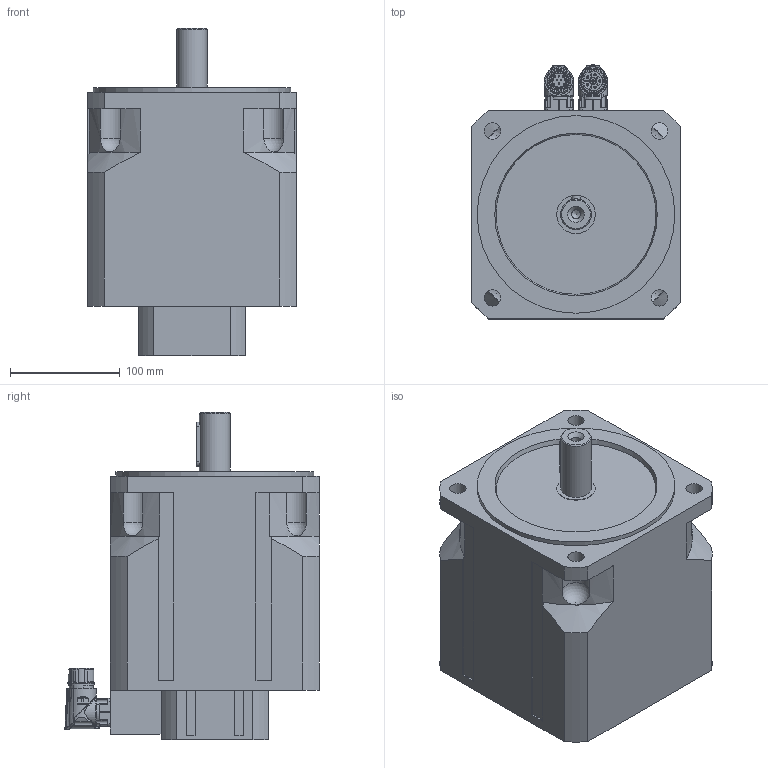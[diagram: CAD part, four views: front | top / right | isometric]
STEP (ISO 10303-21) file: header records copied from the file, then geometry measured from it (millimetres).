
FILE_DESCRIPTION((''),'2;1');
FILE_NAME('C:\PDF_output\N7028 02 BP Z_3000_S4_S1.stp','2012-12-21T10:54:59',('oslejsek'),(''),'Autodesk Inventor 2013','Autodesk Inventor 2013','');
FILE_SCHEMA(('AUTOMOTIVE_DESIGN { 1 0 10303 214 1 1 1 1 }'));
Length unit declared in the file: millimetre
Products named in the file (8): N7028 02 BP Z_3000_S4_S1; N7028 02 BP_3000; BED_0201 Flansch 25x25  6-polig mit Stiften; 124953; 124888; AED_0201_12-polig, Stift; 127323
Assembly tree (7 placements, depth 3):
  N7028 02 BP Z_3000_S4_S1
    N7028 02 BP_3000
    BED_0201 Flansch 25x25  6-polig mit Stiften
      124953
      124888
    AED_0201_12-polig, Stift
      124888
      127323
Bounding box: 190 x 231.55 x 298 mm (x, y, z)
Volume: 7390515.3 mm3; surface area: 273277 mm2
Topology: 5 solids, 5 shells, 1074 faces, 2730 edges, 1712 vertices
Faces by surface type: cylinder 369, plane 303, bspline 258, cone 75, torus 45, sphere 24
Full cylindrical faces by diameter (mm): 1 x12, 1.18 x12, 1.2 x12, 2 x6, 2.15 x6, 2.7 x4, 3 x1, 3.1 x4, 3.2 x1, 4.5 x2, 5.5 x2, 5.9 x2, 8.376 x1, 15 x4, 15.2 x1, 17.4 x1, 17.955 x1, 19.8 x1, 20 x3, 20.1 x2, 20.8 x1, 21.15 x4, 21.6 x1, 21.8 x1, 21.9 x1, 24.4 x1, 28 x1, 35 x1, 180 x1
Entity records: 40679 total; most frequent: CARTESIAN_POINT 16160, ORIENTED_EDGE 5020, DIRECTION 4693, EDGE_CURVE 2510, AXIS2_PLACEMENT_3D 1898, VERTEX_POINT 1669, EDGE_LOOP 1321, FACE_OUTER_BOUND 1074
